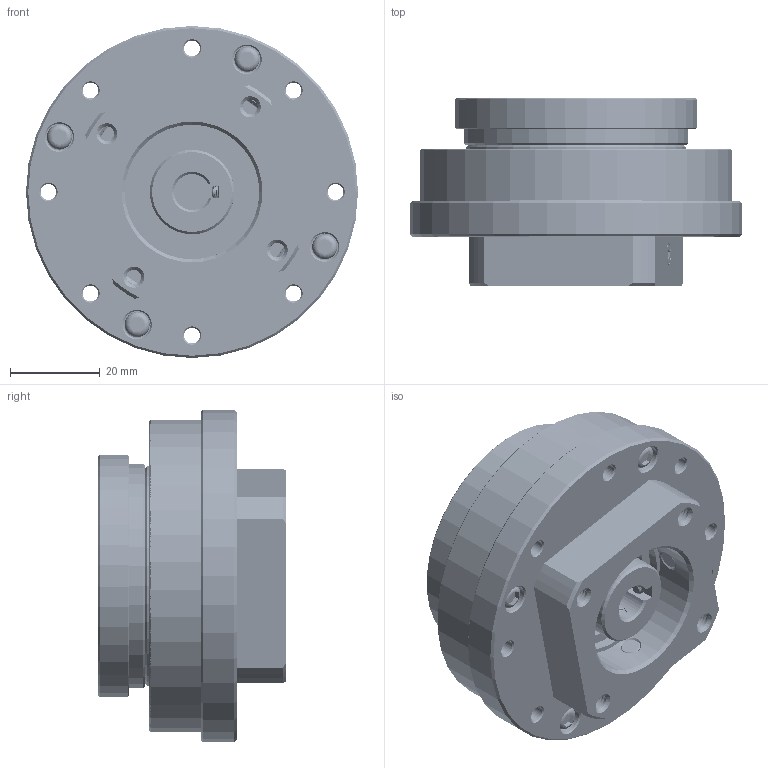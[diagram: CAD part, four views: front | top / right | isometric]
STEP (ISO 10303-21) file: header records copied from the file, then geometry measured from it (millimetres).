
FILE_DESCRIPTION (( 'STEP AP203' ), '1' );
FILE_NAME ('FA14.STEP', '2026-03-08T13:35:00', ( '' ), ( '' ), 'SwSTEP 2.0', 'SolidWorks 2022', '' );
FILE_SCHEMA (( 'CONFIG_CONTROL_DESIGN' ));
Length unit declared in the file: millimetre
Products named in the file (48): FA14.sldasm-Part-26; FA14.sldasm-Part-21; FA14.sldasm-Part-13; FA14.sldasm-Part-5; FA14.sldasm-Part-6; FA14.sldasm-Part-17; FA14.sldasm-Part-45; FA14.sldasm-Part-2; FA14.sldasm-Part-22; FA14; FA14.sldasm-Part-12; FA14.sldasm-Part-39; FA14.sldasm-Part-35; FA14.sldasm-Part-15; FA14.sldasm-Part-46; FA14.sldasm-Part-25; FA14.sldasm-Part-31; FA14.sldasm-Part-9; FA14.sldasm-Part-3; FA14.sldasm-Part-8; FA14.sldasm-Part-28; FA14.sldasm-Part-20; FA14.sldasm-Part-16; FA14.sldasm-Part-10; FA14.sldasm-Part-32; FA14.sldasm-Part-24; FA14.sldasm-Part-29; FA14.sldasm-Part-36; FA14.sldasm-Part-47; FA14.sldasm-Part-1; FA14.sldasm-Part-38; FA14.sldasm-Part-23; FA14.sldasm-Part-42; FA14.sldasm-Part-40; FA14.sldasm-Part-19; FA14.sldasm-Part-41; FA14.sldasm-Part-18; FA14.sldasm-Part-4; FA14.sldasm-Part-44; FA14.sldasm-Part-14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
Assembly tree (61 placements, depth 2):
  FA14
    FA14.sldasm-Part-1  x4
    FA14.sldasm-Part-2  x2
    FA14.sldasm-Part-3  x4
    FA14.sldasm-Part-4
    FA14.sldasm-Part-5
    FA14.sldasm-Part-6  x4
    FA14.sldasm-Part-7
    FA14.sldasm-Part-8  x2
    FA14.sldasm-Part-9
    FA14.sldasm-Part-10
    FA14.sldasm-Part-11
    FA14.sldasm-Part-12
    FA14.sldasm-Part-13
    FA14.sldasm-Part-14
    FA14.sldasm-Part-15
    FA14.sldasm-Part-16
    FA14.sldasm-Part-17
    FA14.sldasm-Part-18
    FA14.sldasm-Part-19
    FA14.sldasm-Part-20
    FA14.sldasm-Part-21
    FA14.sldasm-Part-22
    FA14.sldasm-Part-23
    FA14.sldasm-Part-24
    FA14.sldasm-Part-25
    FA14.sldasm-Part-26
    FA14.sldasm-Part-27
    FA14.sldasm-Part-28
    FA14.sldasm-Part-29
    FA14.sldasm-Part-30
    FA14.sldasm-Part-31
    FA14.sldasm-Part-32
    FA14.sldasm-Part-33
    FA14.sldasm-Part-34
    FA14.sldasm-Part-35
    FA14.sldasm-Part-36
    FA14.sldasm-Part-37
    FA14.sldasm-Part-38
    FA14.sldasm-Part-39
    FA14.sldasm-Part-40  x4
    FA14.sldasm-Part-41
    FA14.sldasm-Part-42
    FA14.sldasm-Part-43
    FA14.sldasm-Part-44
    FA14.sldasm-Part-45
    FA14.sldasm-Part-46
    FA14.sldasm-Part-47
Bounding box: 74 x 41.9 x 74 mm (x, y, z)
Volume: 90423.7 mm3; surface area: 79709.5 mm2
Topology: 61 solids, 61 shells, 4508 faces, 12524 edges, 8187 vertices
Faces by surface type: cylinder 3195, plane 550, cone 478, bspline 187, torus 52, sphere 46
Entity records: 233816 total; most frequent: CARTESIAN_POINT 148719, ORIENTED_EDGE 18812, DIRECTION 13181, EDGE_CURVE 9406, VERTEX_POINT 6141, AXIS2_PLACEMENT_3D 4940, B_SPLINE_CURVE_WITH_KNOTS 4524, EDGE_LOOP 3713
